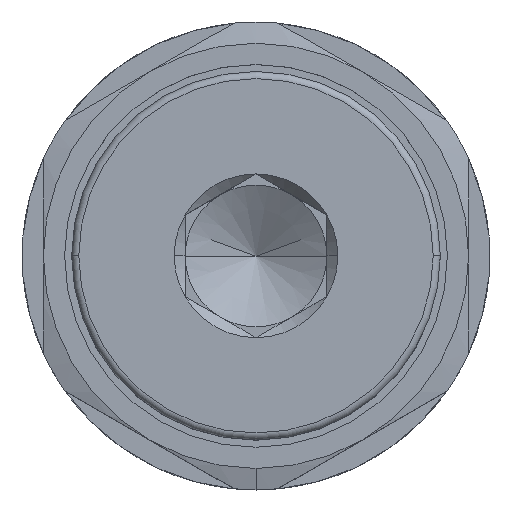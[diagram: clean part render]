
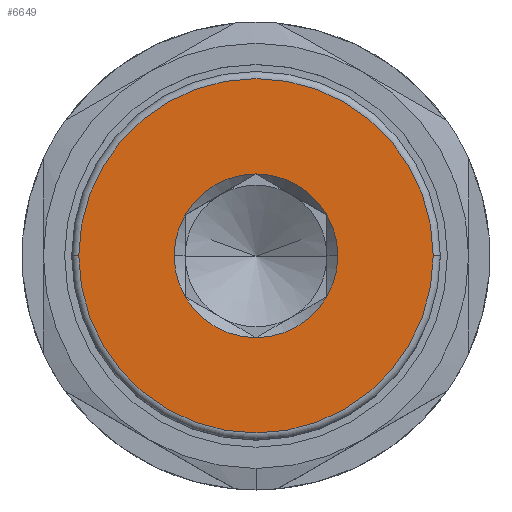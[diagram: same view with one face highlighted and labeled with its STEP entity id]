
A CAD part, top view. The second image highlights one B-rep face of the part: STEP entity #6649.
In plain terms, the highlighted planar face has unit normal (0, 0, 1) as drawn and (0, 1, 0) by its records, which use the part's own axes.
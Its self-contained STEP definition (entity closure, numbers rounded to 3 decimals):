
#5796=CARTESIAN_POINT('',(0.,5.,0.));
#5797=DIRECTION('',(0.,1.,0.));
#5798=DIRECTION('',(-1.,0.,0.));
#5799=AXIS2_PLACEMENT_3D('',#5796,#5797,#5798);
#5812=CARTESIAN_POINT('',(0.,5.,0.));
#5813=DIRECTION('',(0.,-1.,0.));
#5814=DIRECTION('',(-1.,0.,0.));
#5815=AXIS2_PLACEMENT_3D('',#5812,#5813,#5814);
#5820=CARTESIAN_POINT('',(0.,5.,0.));
#5821=DIRECTION('',(0.,-1.,0.));
#5822=DIRECTION('',(-1.,0.,0.));
#5823=AXIS2_PLACEMENT_3D('',#5820,#5821,#5822);
#5828=CARTESIAN_POINT('',(0.,5.,0.));
#5829=DIRECTION('',(0.,1.,0.));
#5830=DIRECTION('',(-1.,0.,0.));
#5831=AXIS2_PLACEMENT_3D('',#5828,#5829,#5830);
#6454=CARTESIAN_POINT('',(-12.5,5.,0.));
#6456=VERTEX_POINT('',#6454);
#6476=CARTESIAN_POINT('',(12.5,5.,0.));
#6478=VERTEX_POINT('',#6476);
#6526=CARTESIAN_POINT('',(-5.775,5.,0.));
#6527=CARTESIAN_POINT('',(5.775,5.,0.));
#6528=VERTEX_POINT('',#6526);
#6529=VERTEX_POINT('',#6527);
#6634=CARTESIAN_POINT('',(0.,5.,0.));
#6635=DIRECTION('',(0.,-1.,0.));
#6636=DIRECTION('',(-1.,0.,0.));
#6637=AXIS2_PLACEMENT_3D('',#6634,#6635,#6636);
#6638=PLANE('',#6637);
#6639=ORIENTED_EDGE('',*,*,#6613,.F.);
#6640=ORIENTED_EDGE('',*,*,#6629,.T.);
#6641=EDGE_LOOP('',(#6639,#6640));
#6642=FACE_OUTER_BOUND('',#6641,.F.);
#6644=ORIENTED_EDGE('',*,*,#6643,.F.);
#6646=ORIENTED_EDGE('',*,*,#6645,.T.);
#6647=EDGE_LOOP('',(#6644,#6646));
#6648=FACE_BOUND('',#6647,.F.);
#5800=CIRCLE('',#5799,12.5);
#5816=CIRCLE('',#5815,12.5);
#5824=CIRCLE('',#5823,5.775);
#5832=CIRCLE('',#5831,5.775);
#6613=EDGE_CURVE('',#6456,#6478,#5800,.T.);
#6629=EDGE_CURVE('',#6456,#6478,#5816,.T.);
#6643=EDGE_CURVE('',#6528,#6529,#5824,.T.);
#6645=EDGE_CURVE('',#6528,#6529,#5832,.T.);
#6649=ADVANCED_FACE('',(#6642,#6648),#6638,.F.);
